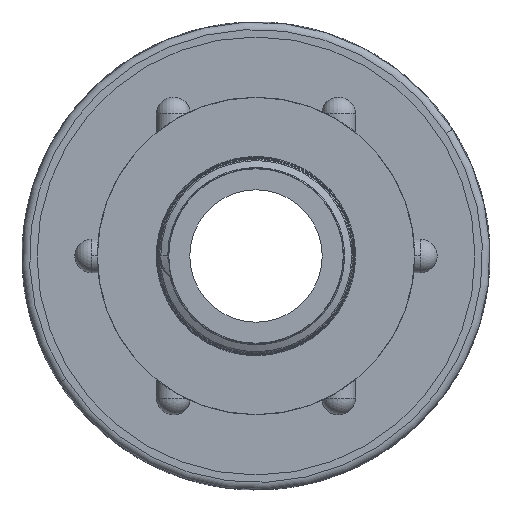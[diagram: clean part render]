
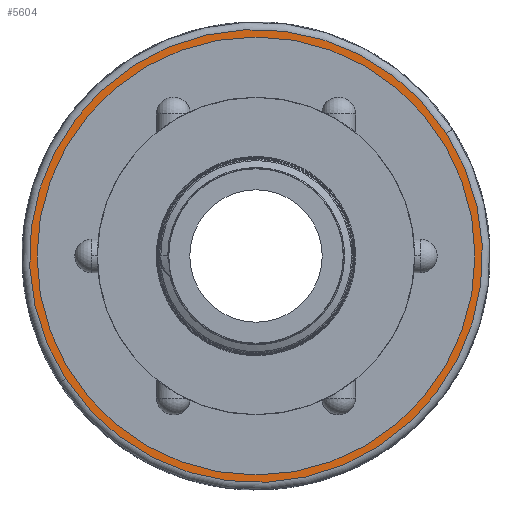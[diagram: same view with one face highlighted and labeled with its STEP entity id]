
A CAD part, left-side view. The second image highlights one B-rep face of the part: STEP entity #5604.
In plain terms, the highlighted planar face has unit normal (-1, 0, 0).
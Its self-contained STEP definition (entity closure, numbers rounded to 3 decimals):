
#640 = AXIS2_PLACEMENT_3D ( 'NONE', #16760, #16768, #16769 ) ;
#955 = CARTESIAN_POINT ( 'NONE',  ( 0., 0., 0. ) ) ;
#957 = DIRECTION ( 'NONE',  ( 1., 0., 0. ) ) ;
#958 = DIRECTION ( 'NONE',  ( 0., 0., -1. ) ) ;
#1817 = CARTESIAN_POINT ( 'NONE',  ( 0., 0., 0. ) ) ;
#1819 = DIRECTION ( 'NONE',  ( -1., 0., 0. ) ) ;
#1821 = DIRECTION ( 'NONE',  ( 0., 0., 1. ) ) ;
#5604 = ADVANCED_FACE ( 'NONE', ( #16764, #16765 ), #16766, .T. ) ;
#8247 = CARTESIAN_POINT ( 'NONE',  ( 0., 0., 30.15 ) ) ;
#8249 = CARTESIAN_POINT ( 'NONE',  ( 0., 0., -30.15 ) ) ;
#8269 = CARTESIAN_POINT ( 'NONE',  ( 0., 0., 27.35 ) ) ;
#8283 = CARTESIAN_POINT ( 'NONE',  ( 0., 0., -27.35 ) ) ;
#12352 = CARTESIAN_POINT ( 'NONE',  ( 0., 0., 0. ) ) ;
#12353 = DIRECTION ( 'NONE',  ( -1., 0., 0. ) ) ;
#12354 = DIRECTION ( 'NONE',  ( 0., 0., 1. ) ) ;
#12672 = CARTESIAN_POINT ( 'NONE',  ( 0., 0., 0. ) ) ;
#12673 = DIRECTION ( 'NONE',  ( 1., 0., 0. ) ) ;
#12674 = DIRECTION ( 'NONE',  ( 0., 0., -1. ) ) ;
#13593 = VERTEX_POINT ( 'NONE', #8247 ) ;
#13594 = VERTEX_POINT ( 'NONE', #8249 ) ;
#13604 = VERTEX_POINT ( 'NONE', #8269 ) ;
#13611 = VERTEX_POINT ( 'NONE', #8283 ) ;
#16760 = CARTESIAN_POINT ( 'NONE',  ( 0., 31.15, 0. ) ) ;
#16764 = FACE_OUTER_BOUND ( 'NONE', #16863, .T. ) ;
#16765 = FACE_BOUND ( 'NONE', #16865, .T. ) ;
#16766 = PLANE ( 'NONE',  #640 ) ;
#16768 = DIRECTION ( 'NONE',  ( -1., 0., 0. ) ) ;
#16769 = DIRECTION ( 'NONE',  ( 0., 0., 1. ) ) ;
#16863 = EDGE_LOOP ( 'NONE', ( #20137, #20138 ) ) ;
#16865 = EDGE_LOOP ( 'NONE', ( #20139, #20140 ) ) ;
#19626 = EDGE_CURVE ( 'NONE', #13611, #13604, #28146, .T. ) ;
#19651 = EDGE_CURVE ( 'NONE', #13594, #13593, #28165, .T. ) ;
#20021 = EDGE_CURVE ( 'NONE', #13593, #13594, #28545, .T. ) ;
#20069 = EDGE_CURVE ( 'NONE', #13604, #13611, #28609, .T. ) ;
#20137 = ORIENTED_EDGE ( 'NONE', *, *, #20021, .T. ) ;
#20138 = ORIENTED_EDGE ( 'NONE', *, *, #19651, .T. ) ;
#20139 = ORIENTED_EDGE ( 'NONE', *, *, #19626, .T. ) ;
#20140 = ORIENTED_EDGE ( 'NONE', *, *, #20069, .T. ) ;
#28146 = CIRCLE ( 'NONE', #28150, 27.35 ) ;
#28150 = AXIS2_PLACEMENT_3D ( 'NONE', #955, #957, #958 ) ;
#28165 = CIRCLE ( 'NONE', #28168, 30.15 ) ;
#28168 = AXIS2_PLACEMENT_3D ( 'NONE', #1817, #1819, #1821 ) ;
#28545 = CIRCLE ( 'NONE', #28550, 30.15 ) ;
#28550 = AXIS2_PLACEMENT_3D ( 'NONE', #12352, #12353, #12354 ) ;
#28609 = CIRCLE ( 'NONE', #28611, 27.35 ) ;
#28611 = AXIS2_PLACEMENT_3D ( 'NONE', #12672, #12673, #12674 ) ;
